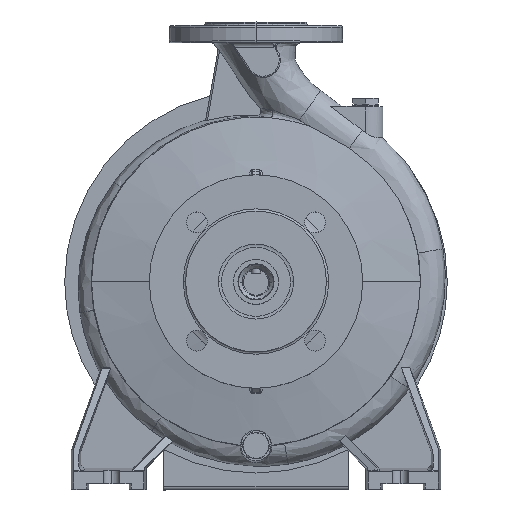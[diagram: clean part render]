
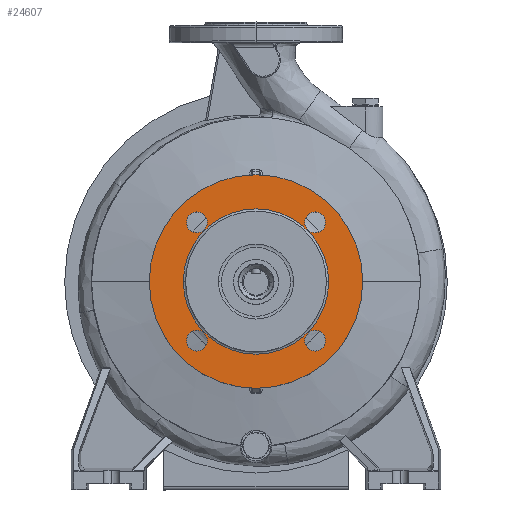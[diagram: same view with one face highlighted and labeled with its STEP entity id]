
A CAD part, top view. The second image highlights one B-rep face of the part: STEP entity #24607.
In plain terms, the highlighted planar face has unit normal (0, 0, 1).
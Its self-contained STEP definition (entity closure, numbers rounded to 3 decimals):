
#398 = AXIS2_PLACEMENT_3D ( 'NONE', #22292, #16815, #38052 ) ;
#433 = DIRECTION ( 'NONE',  ( 0., 0., 1. ) ) ;
#614 = CIRCLE ( 'NONE', #36156, 9. ) ;
#1173 = ORIENTED_EDGE ( 'NONE', *, *, #16647, .F. ) ;
#2039 = DIRECTION ( 'NONE',  ( 0., 0., -1. ) ) ;
#2372 = FACE_OUTER_BOUND ( 'NONE', #4639, .T. ) ;
#2557 = EDGE_CURVE ( 'NONE', #35803, #14904, #9390, .T. ) ;
#2656 = DIRECTION ( 'NONE',  ( 1., 0., 0. ) ) ;
#2745 = ORIENTED_EDGE ( 'NONE', *, *, #6310, .F. ) ;
#2789 = DIRECTION ( 'NONE',  ( 0., 0., -1. ) ) ;
#2811 = CARTESIAN_POINT ( 'NONE',  ( -92.5, 0., 97. ) ) ;
#3683 = VERTEX_POINT ( 'NONE', #9404 ) ;
#3938 = CIRCLE ( 'NONE', #13001, 63. ) ;
#4333 = CIRCLE ( 'NONE', #39884, 92.5 ) ;
#4377 = EDGE_CURVE ( 'NONE', #33643, #24801, #28487, .T. ) ;
#4393 = EDGE_CURVE ( 'NONE', #11331, #16015, #3938, .T. ) ;
#4550 = ORIENTED_EDGE ( 'NONE', *, *, #4393, .T. ) ;
#4639 = EDGE_LOOP ( 'NONE', ( #25479, #23442 ) ) ;
#5310 = DIRECTION ( 'NONE',  ( 0., 0., 1. ) ) ;
#5601 = DIRECTION ( 'NONE',  ( 0., 0., -1. ) ) ;
#5910 = CARTESIAN_POINT ( 'NONE',  ( -51.265, 51.265, 97. ) ) ;
#6040 = DIRECTION ( 'NONE',  ( 0., 0., 1. ) ) ;
#6213 = FACE_BOUND ( 'NONE', #25631, .T. ) ;
#6310 = EDGE_CURVE ( 'NONE', #24801, #33643, #12026, .T. ) ;
#6759 = VERTEX_POINT ( 'NONE', #27948 ) ;
#6792 = AXIS2_PLACEMENT_3D ( 'NONE', #15659, #26565, #16642 ) ;
#7123 = CARTESIAN_POINT ( 'NONE',  ( 0., 0., 97. ) ) ;
#7461 = AXIS2_PLACEMENT_3D ( 'NONE', #16319, #2039, #23694 ) ;
#7509 = DIRECTION ( 'NONE',  ( 0., 0., 1. ) ) ;
#8322 = EDGE_CURVE ( 'NONE', #6759, #17512, #614, .T. ) ;
#8358 = AXIS2_PLACEMENT_3D ( 'NONE', #18559, #17953, #36357 ) ;
#8881 = CARTESIAN_POINT ( 'NONE',  ( 51.265, 51.265, 97. ) ) ;
#9246 = VERTEX_POINT ( 'NONE', #24146 ) ;
#9267 = DIRECTION ( 'NONE',  ( 0., 0., 1. ) ) ;
#9384 = CARTESIAN_POINT ( 'NONE',  ( -51.265, 51.265, 97. ) ) ;
#9390 = CIRCLE ( 'NONE', #7461, 92.5 ) ;
#9404 = CARTESIAN_POINT ( 'NONE',  ( 60.265, 51.265, 97. ) ) ;
#9803 = DIRECTION ( 'NONE',  ( 0., 0., 1. ) ) ;
#9955 = DIRECTION ( 'NONE',  ( -1., 0., 0. ) ) ;
#9981 = EDGE_CURVE ( 'NONE', #16015, #11331, #36738, .T. ) ;
#11331 = VERTEX_POINT ( 'NONE', #16011 ) ;
#12026 = CIRCLE ( 'NONE', #398, 9. ) ;
#12106 = AXIS2_PLACEMENT_3D ( 'NONE', #8881, #6040, #12709 ) ;
#12117 = DIRECTION ( 'NONE',  ( 1., 0., 0. ) ) ;
#12709 = DIRECTION ( 'NONE',  ( 1., 0., 0. ) ) ;
#13001 = AXIS2_PLACEMENT_3D ( 'NONE', #7123, #34626, #9955 ) ;
#13186 = CARTESIAN_POINT ( 'NONE',  ( -51.265, -51.265, 97. ) ) ;
#13218 = ORIENTED_EDGE ( 'NONE', *, *, #21208, .F. ) ;
#13711 = CARTESIAN_POINT ( 'NONE',  ( -42.265, 51.265, 97. ) ) ;
#14359 = CIRCLE ( 'NONE', #36934, 9. ) ;
#14731 = PLANE ( 'NONE',  #8358 ) ;
#14904 = VERTEX_POINT ( 'NONE', #39798 ) ;
#15113 = FACE_BOUND ( 'NONE', #29637, .T. ) ;
#15659 = CARTESIAN_POINT ( 'NONE',  ( 51.265, 51.265, 97. ) ) ;
#15823 = CIRCLE ( 'NONE', #6792, 9. ) ;
#16011 = CARTESIAN_POINT ( 'NONE',  ( -63., 0., 97. ) ) ;
#16015 = VERTEX_POINT ( 'NONE', #21378 ) ;
#16319 = CARTESIAN_POINT ( 'NONE',  ( 0., 0., 97. ) ) ;
#16453 = CARTESIAN_POINT ( 'NONE',  ( -60.265, 51.265, 97. ) ) ;
#16642 = DIRECTION ( 'NONE',  ( 1., 0., 0. ) ) ;
#16647 = EDGE_CURVE ( 'NONE', #30987, #33679, #22243, .T. ) ;
#16815 = DIRECTION ( 'NONE',  ( 0., 0., 1. ) ) ;
#17512 = VERTEX_POINT ( 'NONE', #39520 ) ;
#17732 = EDGE_CURVE ( 'NONE', #9246, #3683, #15823, .T. ) ;
#17953 = DIRECTION ( 'NONE',  ( 0., 0., -1. ) ) ;
#18174 = ORIENTED_EDGE ( 'NONE', *, *, #29986, .F. ) ;
#18559 = CARTESIAN_POINT ( 'NONE',  ( 63., 0., 97. ) ) ;
#18783 = CARTESIAN_POINT ( 'NONE',  ( 0., 0., 97. ) ) ;
#21208 = EDGE_CURVE ( 'NONE', #17512, #6759, #32846, .T. ) ;
#21221 = CARTESIAN_POINT ( 'NONE',  ( 51.265, -51.265, 97. ) ) ;
#21378 = CARTESIAN_POINT ( 'NONE',  ( 63., 0., 97. ) ) ;
#21804 = FACE_BOUND ( 'NONE', #37340, .T. ) ;
#21945 = DIRECTION ( 'NONE',  ( 1., 0., 0. ) ) ;
#21971 = EDGE_CURVE ( 'NONE', #3683, #9246, #37912, .T. ) ;
#22243 = CIRCLE ( 'NONE', #30633, 9. ) ;
#22292 = CARTESIAN_POINT ( 'NONE',  ( -51.265, -51.265, 97. ) ) ;
#23287 = ORIENTED_EDGE ( 'NONE', *, *, #8322, .F. ) ;
#23442 = ORIENTED_EDGE ( 'NONE', *, *, #2557, .F. ) ;
#23694 = DIRECTION ( 'NONE',  ( -1., 0., 0. ) ) ;
#24036 = FACE_BOUND ( 'NONE', #34505, .T. ) ;
#24146 = CARTESIAN_POINT ( 'NONE',  ( 42.265, 51.265, 97. ) ) ;
#24226 = FACE_BOUND ( 'NONE', #34382, .T. ) ;
#24607 = ADVANCED_FACE ( 'NONE', ( #21804, #24036, #6213, #24226, #15113, #2372 ), #14731, .F. ) ;
#24801 = VERTEX_POINT ( 'NONE', #38742 ) ;
#25393 = ORIENTED_EDGE ( 'NONE', *, *, #21971, .F. ) ;
#25479 = ORIENTED_EDGE ( 'NONE', *, *, #36230, .F. ) ;
#25631 = EDGE_LOOP ( 'NONE', ( #23287, #13218 ) ) ;
#26565 = DIRECTION ( 'NONE',  ( 0., 0., 1. ) ) ;
#27948 = CARTESIAN_POINT ( 'NONE',  ( 60.265, -51.265, 97. ) ) ;
#28396 = ORIENTED_EDGE ( 'NONE', *, *, #17732, .F. ) ;
#28487 = CIRCLE ( 'NONE', #36807, 9. ) ;
#29637 = EDGE_LOOP ( 'NONE', ( #4550, #38148 ) ) ;
#29986 = EDGE_CURVE ( 'NONE', #33679, #30987, #14359, .T. ) ;
#30185 = ORIENTED_EDGE ( 'NONE', *, *, #4377, .F. ) ;
#30633 = AXIS2_PLACEMENT_3D ( 'NONE', #5910, #5310, #2656 ) ;
#30987 = VERTEX_POINT ( 'NONE', #13711 ) ;
#31195 = CARTESIAN_POINT ( 'NONE',  ( 51.265, -51.265, 97. ) ) ;
#31972 = DIRECTION ( 'NONE',  ( 1., 0., 0. ) ) ;
#32227 = CARTESIAN_POINT ( 'NONE',  ( -42.265, -51.265, 97. ) ) ;
#32846 = CIRCLE ( 'NONE', #34115, 9. ) ;
#33643 = VERTEX_POINT ( 'NONE', #32227 ) ;
#33679 = VERTEX_POINT ( 'NONE', #16453 ) ;
#33718 = DIRECTION ( 'NONE',  ( -1., 0., 0. ) ) ;
#34115 = AXIS2_PLACEMENT_3D ( 'NONE', #21221, #9267, #12117 ) ;
#34382 = EDGE_LOOP ( 'NONE', ( #25393, #28396 ) ) ;
#34505 = EDGE_LOOP ( 'NONE', ( #30185, #2745 ) ) ;
#34626 = DIRECTION ( 'NONE',  ( 0., 0., -1. ) ) ;
#34813 = AXIS2_PLACEMENT_3D ( 'NONE', #18783, #2789, #36782 ) ;
#35803 = VERTEX_POINT ( 'NONE', #2811 ) ;
#36156 = AXIS2_PLACEMENT_3D ( 'NONE', #31195, #433, #36870 ) ;
#36230 = EDGE_CURVE ( 'NONE', #14904, #35803, #4333, .T. ) ;
#36357 = DIRECTION ( 'NONE',  ( -1., 0., 0. ) ) ;
#36738 = CIRCLE ( 'NONE', #34813, 63. ) ;
#36782 = DIRECTION ( 'NONE',  ( -1., 0., 0. ) ) ;
#36807 = AXIS2_PLACEMENT_3D ( 'NONE', #13186, #7509, #31972 ) ;
#36870 = DIRECTION ( 'NONE',  ( 1., 0., 0. ) ) ;
#36934 = AXIS2_PLACEMENT_3D ( 'NONE', #9384, #9803, #21945 ) ;
#37130 = CARTESIAN_POINT ( 'NONE',  ( 0., 0., 97. ) ) ;
#37340 = EDGE_LOOP ( 'NONE', ( #1173, #18174 ) ) ;
#37912 = CIRCLE ( 'NONE', #12106, 9. ) ;
#38052 = DIRECTION ( 'NONE',  ( 1., 0., 0. ) ) ;
#38148 = ORIENTED_EDGE ( 'NONE', *, *, #9981, .T. ) ;
#38742 = CARTESIAN_POINT ( 'NONE',  ( -60.265, -51.265, 97. ) ) ;
#39520 = CARTESIAN_POINT ( 'NONE',  ( 42.265, -51.265, 97. ) ) ;
#39798 = CARTESIAN_POINT ( 'NONE',  ( 92.5, 0., 97. ) ) ;
#39884 = AXIS2_PLACEMENT_3D ( 'NONE', #37130, #5601, #33718 ) ;
